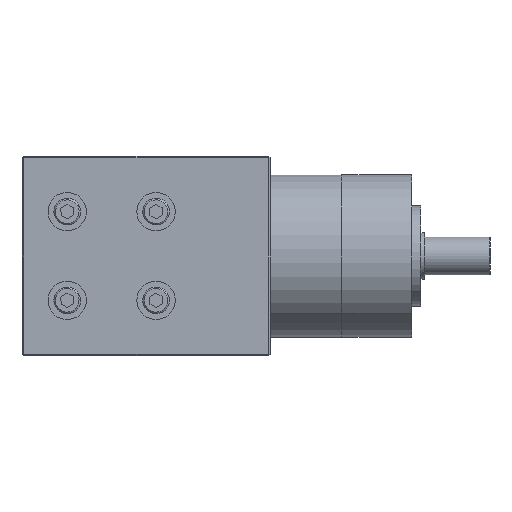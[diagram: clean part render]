
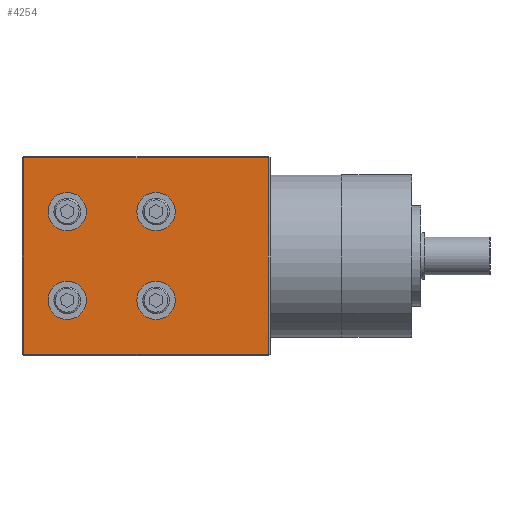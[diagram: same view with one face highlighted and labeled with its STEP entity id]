
A CAD part, front view. The second image highlights one B-rep face of the part: STEP entity #4254.
In plain terms, the highlighted planar face has unit normal (0, -1, 0).
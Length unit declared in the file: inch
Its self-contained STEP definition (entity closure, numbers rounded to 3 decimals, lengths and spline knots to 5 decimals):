
#470 = DIRECTION ( 'NONE',  ( 0., 0., -1. ) ) ;
#520 = CARTESIAN_POINT ( 'NONE',  ( 6.46289, -0.3548, 2.2524 ) ) ;
#612 = DIRECTION ( 'NONE',  ( 0., 0., -1. ) ) ;
#801 = ORIENTED_EDGE ( 'NONE', *, *, #7354, .F. ) ;
#1118 = EDGE_CURVE ( 'NONE', #13469, #9120, #6888, .T. ) ;
#1235 = VERTEX_POINT ( 'NONE', #2266 ) ;
#1315 = ORIENTED_EDGE ( 'NONE', *, *, #15005, .F. ) ;
#1352 = DIRECTION ( 'NONE',  ( 0., -1., 0. ) ) ;
#1357 = ORIENTED_EDGE ( 'NONE', *, *, #13479, .T. ) ;
#1608 = CARTESIAN_POINT ( 'NONE',  ( 6.46289, -0.3548, 2.01145 ) ) ;
#1636 = ORIENTED_EDGE ( 'NONE', *, *, #10224, .F. ) ;
#1711 = DIRECTION ( 'NONE',  ( 0., 1., 0. ) ) ;
#1718 = CARTESIAN_POINT ( 'NONE',  ( 6.46289, -0.3548, 1.13871 ) ) ;
#1824 = DIRECTION ( 'NONE',  ( 0., -1., 0. ) ) ;
#1882 = CARTESIAN_POINT ( 'NONE',  ( 5.34919, -0.3548, 1.13871 ) ) ;
#1919 = AXIS2_PLACEMENT_3D ( 'NONE', #1718, #11970, #15858 ) ;
#2121 = FACE_BOUND ( 'NONE', #4392, .T. ) ;
#2266 = CARTESIAN_POINT ( 'NONE',  ( 6.46289, -0.3548, 2.49334 ) ) ;
#2345 = ORIENTED_EDGE ( 'NONE', *, *, #15348, .F. ) ;
#2558 = AXIS2_PLACEMENT_3D ( 'NONE', #1882, #8450, #13484 ) ;
#2620 = CIRCLE ( 'NONE', #1919, 0.24094 ) ;
#2940 = FACE_BOUND ( 'NONE', #15652, .T. ) ;
#3179 = VERTEX_POINT ( 'NONE', #5028 ) ;
#3877 = EDGE_CURVE ( 'NONE', #7128, #5061, #3974, .T. ) ;
#3963 = CARTESIAN_POINT ( 'NONE',  ( 5.34919, -0.3548, 2.01145 ) ) ;
#3972 = CIRCLE ( 'NONE', #8400, 0.24094 ) ;
#3974 = CIRCLE ( 'NONE', #2558, 0.24094 ) ;
#4155 = CARTESIAN_POINT ( 'NONE',  ( 7.87404, -0.3548, 2.94555 ) ) ;
#4160 = ORIENTED_EDGE ( 'NONE', *, *, #1118, .F. ) ;
#4254 = ADVANCED_FACE ( 'NONE', ( #5801, #16426, #6206, #2121, #2940 ), #15799, .F. ) ;
#4347 = CARTESIAN_POINT ( 'NONE',  ( 6.46289, -0.3548, 2.2524 ) ) ;
#4392 = EDGE_LOOP ( 'NONE', ( #4160, #801 ) ) ;
#4443 = VERTEX_POINT ( 'NONE', #3963 ) ;
#4759 = VECTOR ( 'NONE', #12916, 39.37008 ) ;
#4964 = CIRCLE ( 'NONE', #13935, 0.24094 ) ;
#5028 = CARTESIAN_POINT ( 'NONE',  ( 7.87404, -0.3548, 2.92555 ) ) ;
#5061 = VERTEX_POINT ( 'NONE', #7312 ) ;
#5081 = CARTESIAN_POINT ( 'NONE',  ( 5.34919, -0.3548, 0.89776 ) ) ;
#5117 = DIRECTION ( 'NONE',  ( 0., 0., 1. ) ) ;
#5514 = AXIS2_PLACEMENT_3D ( 'NONE', #14413, #1352, #11866 ) ;
#5530 = DIRECTION ( 'NONE',  ( 0., -1., 0. ) ) ;
#5683 = CARTESIAN_POINT ( 'NONE',  ( 5.34919, -0.3548, 2.2524 ) ) ;
#5720 = DIRECTION ( 'NONE',  ( 0., 0., -1. ) ) ;
#5801 = FACE_OUTER_BOUND ( 'NONE', #12937, .T. ) ;
#5898 = VECTOR ( 'NONE', #12754, 39.37008 ) ;
#6115 = VERTEX_POINT ( 'NONE', #16370 ) ;
#6206 = FACE_BOUND ( 'NONE', #13518, .T. ) ;
#6263 = CARTESIAN_POINT ( 'NONE',  ( 5.34919, -0.3548, 2.2524 ) ) ;
#6310 = CARTESIAN_POINT ( 'NONE',  ( 6.46289, -0.3548, 1.37965 ) ) ;
#6888 = CIRCLE ( 'NONE', #5514, 0.24094 ) ;
#7104 = LINE ( 'NONE', #4155, #12275 ) ;
#7128 = VERTEX_POINT ( 'NONE', #5081 ) ;
#7194 = CARTESIAN_POINT ( 'NONE',  ( 4.78104, -0.3548, 2.92555 ) ) ;
#7312 = CARTESIAN_POINT ( 'NONE',  ( 5.34919, -0.3548, 1.37965 ) ) ;
#7328 = VERTEX_POINT ( 'NONE', #1608 ) ;
#7335 = DIRECTION ( 'NONE',  ( 0., -1., 0. ) ) ;
#7354 = EDGE_CURVE ( 'NONE', #9120, #13469, #2620, .T. ) ;
#7490 = LINE ( 'NONE', #7194, #9462 ) ;
#7617 = EDGE_CURVE ( 'NONE', #16000, #7821, #10682, .T. ) ;
#7795 = ORIENTED_EDGE ( 'NONE', *, *, #9585, .T. ) ;
#7821 = VERTEX_POINT ( 'NONE', #10699 ) ;
#7918 = EDGE_CURVE ( 'NONE', #3179, #6115, #7490, .T. ) ;
#8289 = DIRECTION ( 'NONE',  ( 0., 0., 1. ) ) ;
#8400 = AXIS2_PLACEMENT_3D ( 'NONE', #13692, #15092, #8633 ) ;
#8450 = DIRECTION ( 'NONE',  ( 0., -1., 0. ) ) ;
#8559 = DIRECTION ( 'NONE',  ( -1., 0., 0. ) ) ;
#8633 = DIRECTION ( 'NONE',  ( 0., 0., -1. ) ) ;
#8907 = CIRCLE ( 'NONE', #14347, 0.24094 ) ;
#8993 = ORIENTED_EDGE ( 'NONE', *, *, #7617, .T. ) ;
#9025 = CIRCLE ( 'NONE', #13327, 0.24094 ) ;
#9120 = VERTEX_POINT ( 'NONE', #6310 ) ;
#9458 = DIRECTION ( 'NONE',  ( 0., -1., 0. ) ) ;
#9462 = VECTOR ( 'NONE', #8559, 39.37008 ) ;
#9585 = EDGE_CURVE ( 'NONE', #7821, #3179, #7104, .T. ) ;
#9776 = LINE ( 'NONE', #9965, #4759 ) ;
#9832 = CARTESIAN_POINT ( 'NONE',  ( 4.80104, -0.3548, 0.46555 ) ) ;
#9965 = CARTESIAN_POINT ( 'NONE',  ( 4.80104, -0.3548, 2.94555 ) ) ;
#10115 = DIRECTION ( 'NONE',  ( 0., 0., -1. ) ) ;
#10224 = EDGE_CURVE ( 'NONE', #7328, #1235, #12456, .T. ) ;
#10296 = CARTESIAN_POINT ( 'NONE',  ( 4.78104, -0.3548, 0.46555 ) ) ;
#10411 = AXIS2_PLACEMENT_3D ( 'NONE', #4347, #9458, #5720 ) ;
#10682 = LINE ( 'NONE', #10296, #5898 ) ;
#10699 = CARTESIAN_POINT ( 'NONE',  ( 7.87404, -0.3548, 0.46555 ) ) ;
#11093 = ORIENTED_EDGE ( 'NONE', *, *, #11696, .F. ) ;
#11696 = EDGE_CURVE ( 'NONE', #1235, #7328, #9025, .T. ) ;
#11866 = DIRECTION ( 'NONE',  ( 0., 0., -1. ) ) ;
#11962 = ORIENTED_EDGE ( 'NONE', *, *, #3877, .F. ) ;
#11970 = DIRECTION ( 'NONE',  ( 0., -1., 0. ) ) ;
#11984 = EDGE_CURVE ( 'NONE', #5061, #7128, #3972, .T. ) ;
#12275 = VECTOR ( 'NONE', #5117, 39.37008 ) ;
#12456 = CIRCLE ( 'NONE', #10411, 0.24094 ) ;
#12754 = DIRECTION ( 'NONE',  ( 1., 0., 0. ) ) ;
#12776 = ORIENTED_EDGE ( 'NONE', *, *, #11984, .F. ) ;
#12916 = DIRECTION ( 'NONE',  ( 0., 0., -1. ) ) ;
#12937 = EDGE_LOOP ( 'NONE', ( #8993, #7795, #16231, #1357 ) ) ;
#13327 = AXIS2_PLACEMENT_3D ( 'NONE', #520, #5530, #470 ) ;
#13469 = VERTEX_POINT ( 'NONE', #15453 ) ;
#13479 = EDGE_CURVE ( 'NONE', #6115, #16000, #9776, .T. ) ;
#13484 = DIRECTION ( 'NONE',  ( 0., 0., -1. ) ) ;
#13518 = EDGE_LOOP ( 'NONE', ( #11962, #12776 ) ) ;
#13692 = CARTESIAN_POINT ( 'NONE',  ( 5.34919, -0.3548, 1.13871 ) ) ;
#13935 = AXIS2_PLACEMENT_3D ( 'NONE', #5683, #1824, #612 ) ;
#14106 = AXIS2_PLACEMENT_3D ( 'NONE', #15847, #1711, #8289 ) ;
#14347 = AXIS2_PLACEMENT_3D ( 'NONE', #6263, #7335, #10115 ) ;
#14413 = CARTESIAN_POINT ( 'NONE',  ( 6.46289, -0.3548, 1.13871 ) ) ;
#15005 = EDGE_CURVE ( 'NONE', #15331, #4443, #8907, .T. ) ;
#15092 = DIRECTION ( 'NONE',  ( 0., -1., 0. ) ) ;
#15331 = VERTEX_POINT ( 'NONE', #16139 ) ;
#15348 = EDGE_CURVE ( 'NONE', #4443, #15331, #4964, .T. ) ;
#15453 = CARTESIAN_POINT ( 'NONE',  ( 6.46289, -0.3548, 0.89776 ) ) ;
#15568 = EDGE_LOOP ( 'NONE', ( #2345, #1315 ) ) ;
#15652 = EDGE_LOOP ( 'NONE', ( #1636, #11093 ) ) ;
#15799 = PLANE ( 'NONE',  #14106 ) ;
#15847 = CARTESIAN_POINT ( 'NONE',  ( 4.78104, -0.3548, 2.94555 ) ) ;
#15858 = DIRECTION ( 'NONE',  ( 0., 0., -1. ) ) ;
#16000 = VERTEX_POINT ( 'NONE', #9832 ) ;
#16139 = CARTESIAN_POINT ( 'NONE',  ( 5.34919, -0.3548, 2.49334 ) ) ;
#16231 = ORIENTED_EDGE ( 'NONE', *, *, #7918, .T. ) ;
#16370 = CARTESIAN_POINT ( 'NONE',  ( 4.80104, -0.3548, 2.92555 ) ) ;
#16426 = FACE_BOUND ( 'NONE', #15568, .T. ) ;
